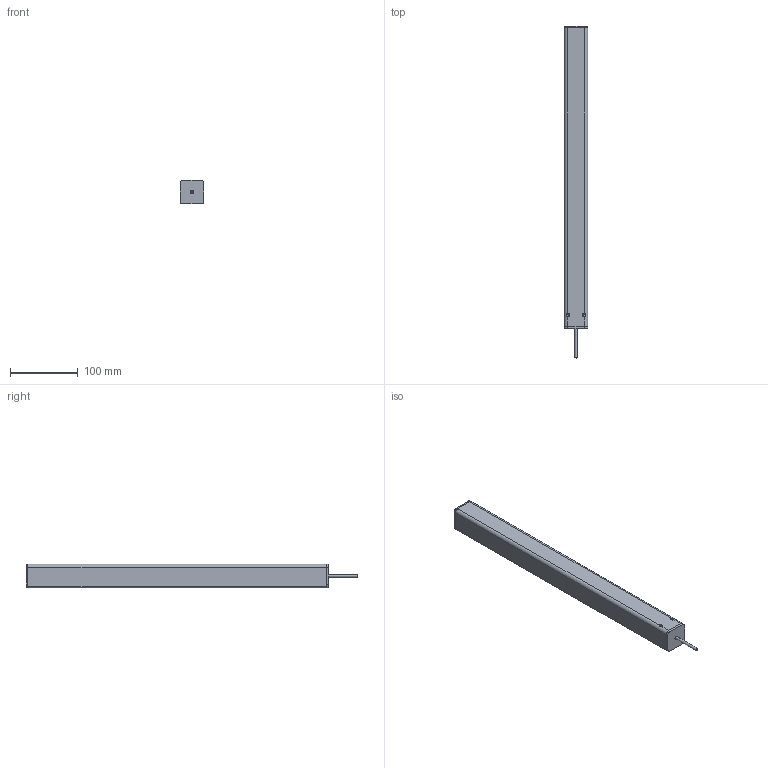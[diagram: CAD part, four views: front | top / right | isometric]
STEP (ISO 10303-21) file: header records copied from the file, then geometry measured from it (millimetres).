
FILE_DESCRIPTION(/* description */ ('Unknown'),/* implementation_level */ '2;1');
FILE_NAME(/* name */ '106.00003 Lineareinheit LA 1430_eingefahren',/* time_stamp */ '2017-08-23T16:39:18+02:00',/* author */ ('Unknown'),/* organization */ ('Unknown'),/* preprocessor_version */ 'ST-DEVELOPER v16.7',/* originating_system */ 'DEX',/* authorisation */ $);
FILE_SCHEMA (('AUTOMOTIVE_DESIGN {1 0 10303 214 3 1 1}'));
Products named in the file (9): 106.00003; 119.00003; 142.00014; 115.00001; 142.00011; 122.00018; 125.00051; 123.00003; 113.00002_70mm
Assembly tree (9 placements, depth 2):
  106.00003
    119.00003
    142.00014  x2
    115.00001
    142.00011
    122.00018
    125.00051
    123.00003
    113.00002_70mm
Bounding box: 35 x 488.5 x 35 mm (x, y, z)
Volume: 307049.6 mm3; surface area: 208144.9 mm2
Topology: 8 solids, 8 shells, 776 faces, 1818 edges, 1082 vertices
Faces by surface type: cylinder 273, bspline 224, plane 204, cone 36, torus 27, sphere 12
Full cylindrical faces by diameter (mm): 2.2 x1, 4 x7, 4.134 x4, 5 x1, 6.647 x1, 8.376 x1, 17.3 x1, 19 x1, 20.8 x3, 21 x1, 25 x1, 28.3 x1, 30.4 x1, 30.63 x1
Entity records: 74513 total; most frequent: CARTESIAN_POINT 58862, ORIENTED_EDGE 3422, DIRECTION 2541, EDGE_CURVE 1711, VERTEX_POINT 1037, AXIS2_PLACEMENT_3D 983, EDGE_LOOP 858, FACE_BOUND 858
